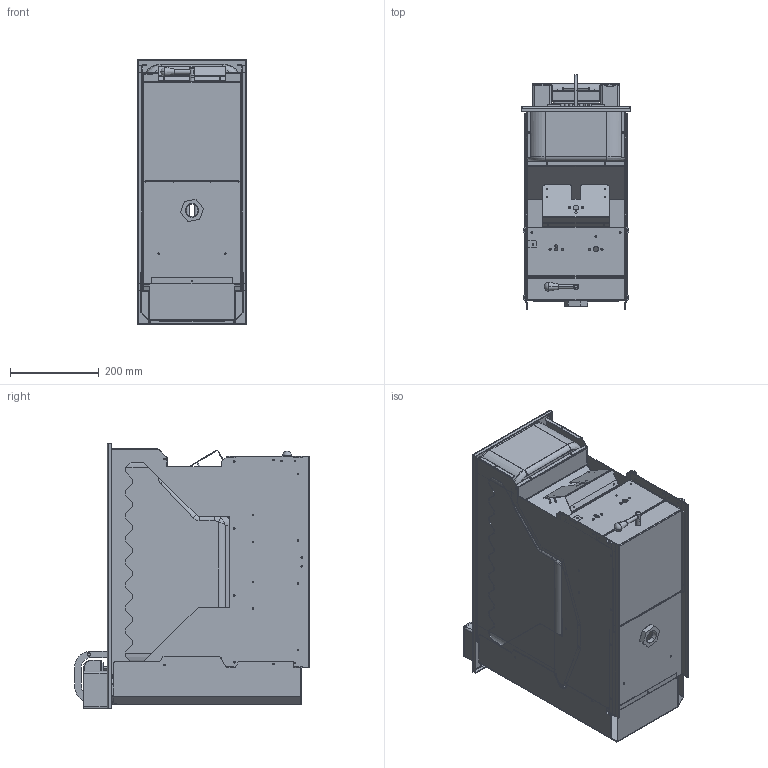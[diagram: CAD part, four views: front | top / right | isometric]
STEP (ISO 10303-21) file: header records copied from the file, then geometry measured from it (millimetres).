
FILE_DESCRIPTION (( 'STEP AP203' ), '1' );
FILE_NAME ('CORE250-E.stp', '2025-04-22T06:13:22', ( '' ), ( '' ), 'SwSTEP 2.0', 'SolidWorks 2024', '' );
FILE_SCHEMA (( 'CONFIG_CONTROL_DESIGN' ));
Products named in the file (1): CORE250-E
Bounding box: 248 x 529.55 x 600 mm (x, y, z)
Volume: 2505528.9 mm3; surface area: 3527394.6 mm2
Topology: 70 solids, 70 shells, 3481 faces, 8654 edges, 5327 vertices
Faces by surface type: plane 1848, cylinder 1356, torus 138, cone 80, bspline 49, sphere 10
Entity records: 106258 total; most frequent: CARTESIAN_POINT 21331, DIRECTION 18302, ORIENTED_EDGE 17272, EDGE_CURVE 8636, AXIS2_PLACEMENT_3D 6496, VERTEX_POINT 5327, VECTOR 5310, LINE 5310
